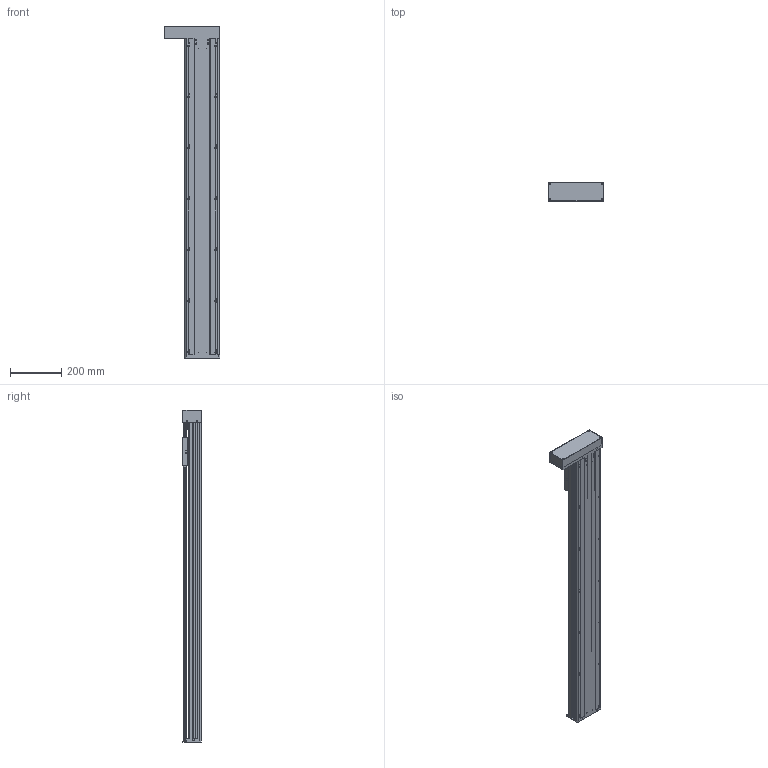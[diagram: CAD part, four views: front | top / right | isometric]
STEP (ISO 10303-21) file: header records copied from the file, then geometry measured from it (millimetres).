
FILE_DESCRIPTION(/* description */ (''),/* implementation_level */ '2;1');
FILE_NAME(/* name */ 'TKA136-FL-1000_asm1_stp.stp',/* time_stamp */ '2016-09-08T14:18:05+08:00',/* author */ (''),/* organization */ (''),/* preprocessor_version */ 'ST-DEVELOPER v15',/* originating_system */ 'SIEMENS PLM Software NX 8.5',/* authorisation */ '');
FILE_SCHEMA (('AUTOMOTIVE_DESIGN { 1 0 10303 214 3 1 1 1 }'));
Length unit declared in the file: millimetre
Products named in the file (3): 100-02; 100-01; TKA136-FL-1000_asm1_stp
Assembly tree (2 placements, depth 2):
  TKA136-FL-1000_asm1_stp
    100-01
    100-02
Bounding box: 216 x 75 x 1300 mm (x, y, z)
Volume: 3848553.6 mm3; surface area: 1525185.8 mm2
Topology: 2 solids, 12 shells, 918 faces, 2605 edges, 1690 vertices
Faces by surface type: cylinder 442, plane 425, cone 51
Full cylindrical faces by diameter (mm): 2.5 x14, 3 x2, 3.3 x13, 4 x4, 4.2 x6, 4.5 x24, 5 x22, 5.5 x26, 6.6 x18, 8 x20, 10 x9, 10.5 x14, 11 x4, 11.6 x1, 12 x9, 15 x3, 16 x5, 17 x1, 24 x5, 26 x1, 28 x1, 46 x1, 50 x1
Entity records: 31162 total; most frequent: CARTESIAN_POINT 8344, DIRECTION 4698, ORIENTED_EDGE 4466, EDGE_CURVE 2233, AXIS2_PLACEMENT_3D 1779, VERTEX_POINT 1592, EDGE_LOOP 1372, LINE 1140
